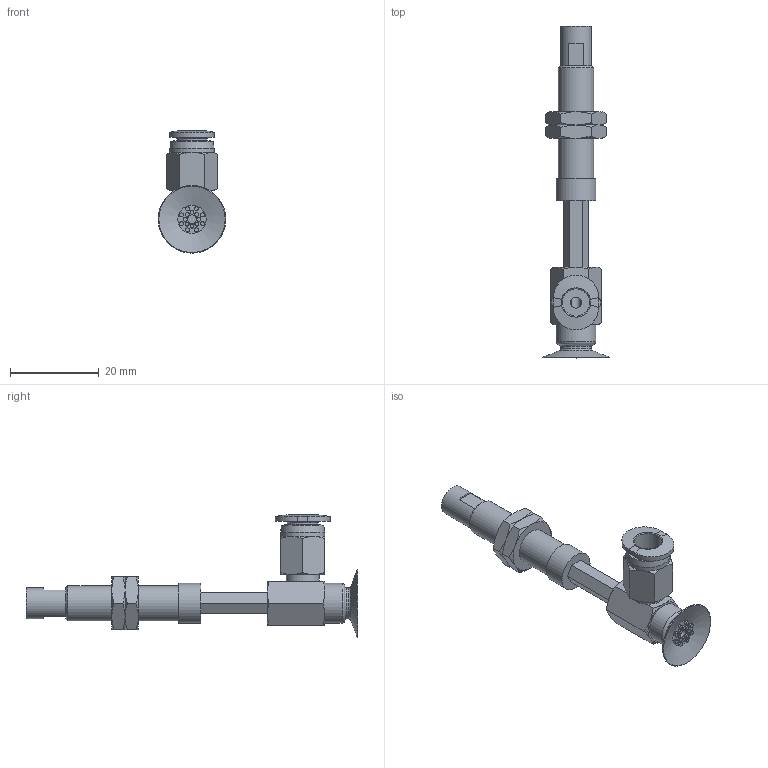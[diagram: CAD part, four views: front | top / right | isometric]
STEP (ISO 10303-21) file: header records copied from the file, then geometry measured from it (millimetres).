
FILE_DESCRIPTION(('STEP AP203'),'1');
FILE_NAME('-O.stp','2025-03-13T03:06:33',(' '),(' '),'Spatial InterOp 3D',' ',' ');
FILE_SCHEMA(('CONFIG_CONTROL_DESIGN'));
Length unit declared in the file: millimetre
Products named in the file (7): BNABPAYH-15A-15-※-O; NAPATH-10A-15--M; NAPATH-10A-15--F; Nut-10A-S; CONNECTOR-10A-15-PA; PC-C_06-M5; BPAG-15A-※
Assembly tree (7 placements, depth 2):
  BNABPAYH-15A-15-※-O
    NAPATH-10A-15--M
    NAPATH-10A-15--F
    Nut-10A-S  x2
    CONNECTOR-10A-15-PA
    PC-C_06-M5
    BPAG-15A-※
Bounding box: 15.3 x 75 x 27.63 mm (x, y, z)
Volume: 4769.4 mm3; surface area: 6150.8 mm2
Topology: 7 solids, 7 shells, 221 faces, 447 edges, 274 vertices
Faces by surface type: plane 96, cone 66, cylinder 41, torus 11, bspline 4, revolution 3
Full cylindrical faces by diameter (mm): 0.9 x16, 2 x2, 4 x4, 4.134 x2, 5 x2, 6 x2, 7 x3, 7.188 x2, 7.4 x1, 8 x1, 8.2 x1, 9 x2, 10 x1
Entity records: 5564 total; most frequent: CARTESIAN_POINT 1475, DIRECTION 781, ORIENTED_EDGE 648, AXIS2_PLACEMENT_3D 344, EDGE_CURVE 324, EDGE_LOOP 306, FACE_OUTER_BOUND 247, VERTEX_POINT 236
